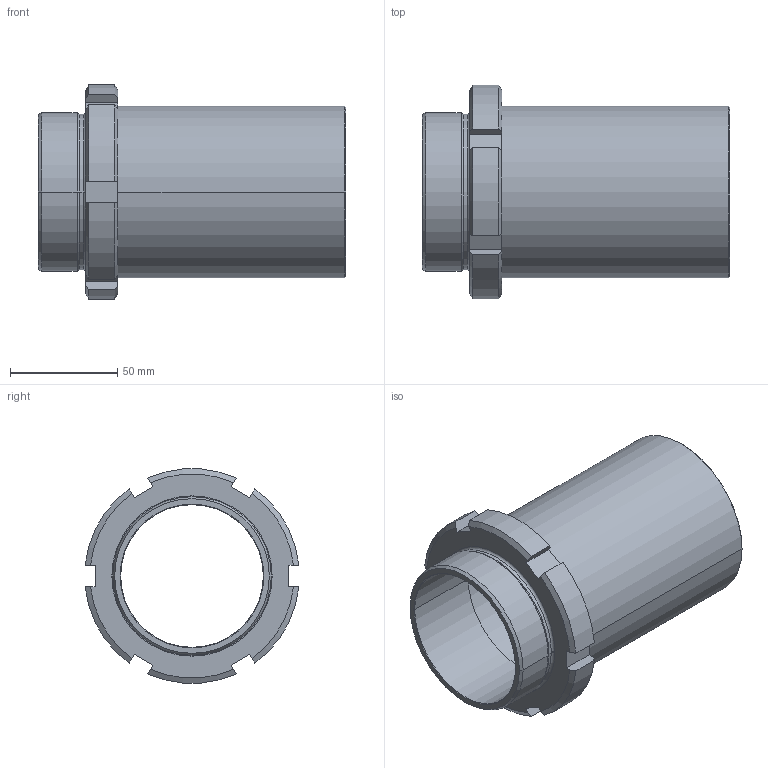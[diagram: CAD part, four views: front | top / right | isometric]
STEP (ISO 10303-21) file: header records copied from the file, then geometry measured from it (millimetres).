
FILE_DESCRIPTION (( 'STEP AP214' ), '1' );
FILE_NAME ('9002000003.STEP', '2017-08-02T06:50:54', ( 'ST01' ), ( '' ), 'SwSTEP 2.0', 'SolidWorks 2016', '' );
FILE_SCHEMA (( 'AUTOMOTIVE_DESIGN' ));
Length unit declared in the file: millimetre
Products named in the file (1): 9002000003
Bounding box: 143 x 99.5 x 99.64 mm (x, y, z)
Volume: 142026.3 mm3; surface area: 77019.4 mm2
Topology: 1 solids, 1 shells, 66 faces, 166 edges, 104 vertices
Faces by surface type: cone 24, plane 22, cylinder 16, torus 4
Entity records: 2056 total; most frequent: CARTESIAN_POINT 433, DIRECTION 336, ORIENTED_EDGE 332, EDGE_CURVE 166, AXIS2_PLACEMENT_3D 127, VERTEX_POINT 104, VECTOR 82, LINE 82
